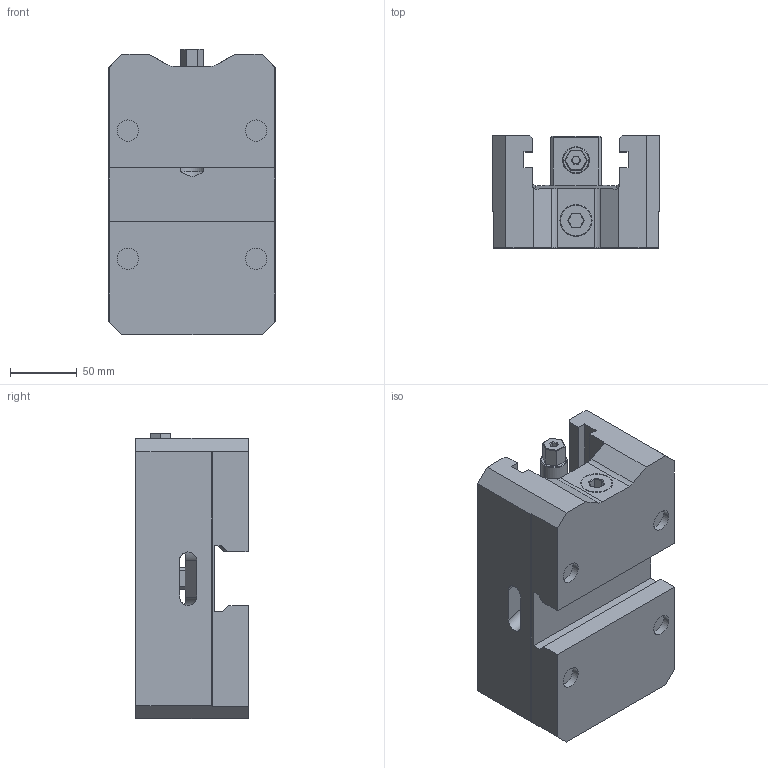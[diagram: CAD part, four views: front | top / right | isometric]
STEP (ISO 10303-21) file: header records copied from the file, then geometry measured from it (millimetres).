
FILE_DESCRIPTION (( 'STEP AP214' ), '1' );
FILE_NAME ('73205.STEP', '2025-02-14T07:37:33', ( '' ), ( '' ), 'SwSTEP 2.0', 'SolidWorks 2021', '' );
FILE_SCHEMA (( 'AUTOMOTIVE_DESIGN' ));
Length unit declared in the file: millimetre
Products named in the file (2): 73205-2501; 73205
Assembly tree (1 placements, depth 2):
  73205
    73205-2501
Bounding box: 125 x 84 x 214 mm (x, y, z)
Volume: 1516806.4 mm3; surface area: 165990.1 mm2
Topology: 3 solids, 3 shells, 220 faces, 558 edges, 356 vertices
Faces by surface type: plane 152, cylinder 48, cone 20
Entity records: 9093 total; most frequent: CARTESIAN_POINT 1348, ORIENTED_EDGE 1116, DIRECTION 1048, EDGE_CURVE 558, VECTOR 416, LINE 416, VERTEX_POINT 356, AXIS2_PLACEMENT_3D 316
